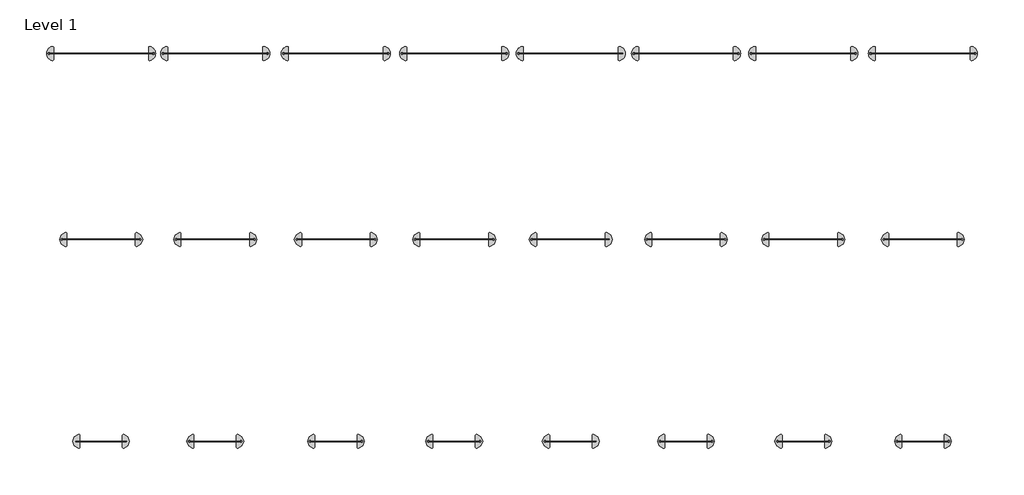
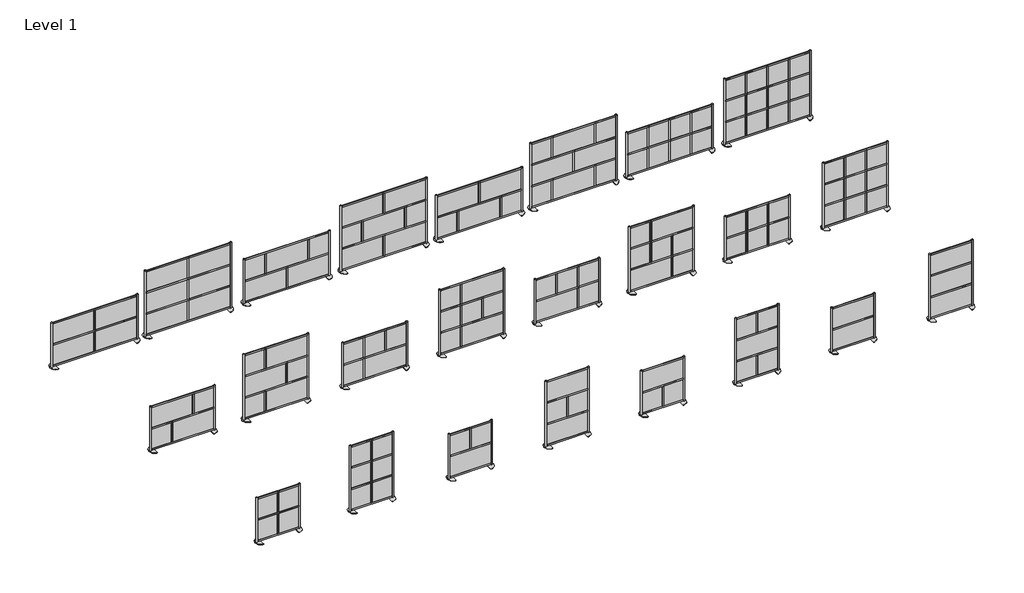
# One storey: 24 furniture elements.
"""IFC4 building model written with IfcOpenShell, lengths in millimetres."""

from ifc_helpers import new_model, si_unit, origin, place, context, project, spatial, transform, mapped, element, save
from components import furniture_49637d3a, furniture_ae6fd556, furniture_6dbf7405, furniture_009af1f4, furniture_4ea784c6, furniture_378eb53b, furniture_814bd26c, furniture_1973c1a8, furniture_4f8a734f, furniture_0cb873e3, furniture_134b2a37, furniture_05770d44, furniture_f7fb56cb, furniture_44894f56, furniture_68dde310, furniture_77953dd8, furniture_960380eb, furniture_73bdf1c8, furniture_b7a553f2, furniture_b8c1659f, furniture_a3e9a44e, furniture_55c42a93, furniture_11cf4dc9, furniture_014495cd

model = new_model("IFC4")

# Units and contexts
model_context = context("Model", 3, world=origin())
ifc_project = project(units=[si_unit("LENGTHUNIT", "METRE", prefix="MILLI")], contexts=[model_context])

# Site, building, storey
site = spatial("IfcSite", under=ifc_project)
building = spatial("IfcBuilding", under=site)
storey = spatial("IfcBuildingStorey", under=building, Name="Level 1", Elevation=0.0)

# Furniture
placement = place(None, origin())
furniture_shape = furniture_49637d3a(model_context)
element("IfcFurniture", 1, ObjectType="Loft_Wall-Framewall-52 : LW41-53\"T", at=placement, inside=storey, context=model_context, shape_type="MappedRepresentation", body=[
    mapped(furniture_shape, transform((1272.8085055, -6503.1542796, 0.0), x_axis=(1.0, 0.0, 0.0), y_axis=(0.0, 1.0, 0.0), z_axis=(0.0, 0.0, 1.0))),
])
furniture_2_shape = furniture_ae6fd556(model_context)
element("IfcFurniture", 2, ObjectType="Loft_Wall-Framewall-52 : LW41-78\"T", at=placement, inside=storey, context=model_context, shape_type="MappedRepresentation", body=[
    mapped(furniture_2_shape, transform((3931.0126367, -6503.1542796, 0.0), x_axis=(1.0, 0.0, 0.0), y_axis=(0.0, 1.0, 0.0), z_axis=(0.0, 0.0, 1.0))),
])
furniture_3_shape = furniture_6dbf7405(model_context)
element("IfcFurniture", 3, ObjectType="Loft_Wall-Framewall-52 : LW42-53\"T", at=placement, inside=storey, context=model_context, shape_type="MappedRepresentation", body=[
    mapped(furniture_3_shape, transform((6740.8413426, -6503.1542796, 0.0), x_axis=(1.0, 0.0, 0.0), y_axis=(0.0, 1.0, 0.0), z_axis=(0.0, 0.0, 1.0))),
])
furniture_4_shape = furniture_009af1f4(model_context)
element("IfcFurniture", 4, ObjectType="Loft_Wall-Framewall-52 : LW42-78\"T", at=placement, inside=storey, context=model_context, shape_type="MappedRepresentation", body=[
    mapped(furniture_4_shape, transform((9496.650452, -6503.1542796, 0.0), x_axis=(1.0, 0.0, 0.0), y_axis=(0.0, 1.0, 0.0), z_axis=(0.0, 0.0, 1.0))),
])
furniture_5_shape = furniture_4ea784c6(model_context)
element("IfcFurniture", 5, ObjectType="Loft_Wall-Framewall-52 : LW44-53\"T", at=placement, inside=storey, context=model_context, shape_type="MappedRepresentation", body=[
    mapped(furniture_5_shape, transform((12213.1486465, -6503.1542796, 0.0), x_axis=(1.0, 0.0, 0.0), y_axis=(0.0, 1.0, 0.0), z_axis=(0.0, 0.0, 1.0))),
])
furniture_6_shape = furniture_378eb53b(model_context)
element("IfcFurniture", 6, ObjectType="Loft_Wall-Framewall-52 : LW44-78\"T", at=placement, inside=storey, context=model_context, shape_type="MappedRepresentation", body=[
    mapped(furniture_6_shape, transform((14895.2049979, -6503.1542796, 0.0), x_axis=(1.0, 0.0, 0.0), y_axis=(0.0, 1.0, 0.0), z_axis=(0.0, 0.0, 1.0))),
])
furniture_7_shape = furniture_814bd26c(model_context)
element("IfcFurniture", 7, ObjectType="Loft_Wall-Framewall-52 : LW45-53\"T", at=placement, inside=storey, context=model_context, shape_type="MappedRepresentation", body=[
    mapped(furniture_7_shape, transform((17626.0260102, -6503.1542796, 0.0), x_axis=(1.0, 0.0, 0.0), y_axis=(0.0, 1.0, 0.0), z_axis=(0.0, 0.0, 1.0))),
])
furniture_8_shape = furniture_1973c1a8(model_context)
element("IfcFurniture", 8, ObjectType="Loft_Wall-Framewall-52 : LW45-78\"T", at=placement, inside=storey, context=model_context, shape_type="MappedRepresentation", body=[
    mapped(furniture_8_shape, transform((20412.1561041, -6503.1542796, 0.0), x_axis=(1.0, 0.0, 0.0), y_axis=(0.0, 1.0, 0.0), z_axis=(0.0, 0.0, 1.0))),
])
furniture_9_shape = furniture_4f8a734f(model_context)
element("IfcFurniture", 9, ObjectType="Loft_Wall-Framewall-76 : LW61-53\"T", at=placement, inside=storey, context=model_context, shape_type="MappedRepresentation", body=[
    mapped(furniture_9_shape, transform((1272.8085055, -1794.3047667, 0.0), x_axis=(1.0, 0.0, 0.0), y_axis=(0.0, 1.0, 0.0), z_axis=(0.0, 0.0, 1.0))),
])
furniture_10_shape = furniture_0cb873e3(model_context)
element("IfcFurniture", 10, ObjectType="Loft_Wall-Framewall-76 : LW61-78\"T", at=placement, inside=storey, context=model_context, shape_type="MappedRepresentation", body=[
    mapped(furniture_10_shape, transform((3931.0126367, -1794.3047667, 0.0), x_axis=(1.0, 0.0, 0.0), y_axis=(0.0, 1.0, 0.0), z_axis=(0.0, 0.0, 1.0))),
])
furniture_11_shape = furniture_134b2a37(model_context)
element("IfcFurniture", 11, ObjectType="Loft_Wall-Framewall-76 : LW62-53\"T", at=placement, inside=storey, context=model_context, shape_type="MappedRepresentation", body=[
    mapped(furniture_11_shape, transform((6740.8413426, -1794.3047667, 0.0), x_axis=(1.0, 0.0, 0.0), y_axis=(0.0, 1.0, 0.0), z_axis=(0.0, 0.0, 1.0))),
])
furniture_12_shape = furniture_05770d44(model_context)
element("IfcFurniture", 12, ObjectType="Loft_Wall-Framewall-76 : LW62-78\"T", at=placement, inside=storey, context=model_context, shape_type="MappedRepresentation", body=[
    mapped(furniture_12_shape, transform((9496.650452, -1794.3047667, 0.0), x_axis=(1.0, 0.0, 0.0), y_axis=(0.0, 1.0, 0.0), z_axis=(0.0, 0.0, 1.0))),
])
furniture_13_shape = furniture_f7fb56cb(model_context)
element("IfcFurniture", 13, ObjectType="Loft_Wall-Framewall-76 : LW63-53\"T", at=placement, inside=storey, context=model_context, shape_type="MappedRepresentation", body=[
    mapped(furniture_13_shape, transform((12213.1486465, -1794.3047667, 0.0), x_axis=(1.0, 0.0, 0.0), y_axis=(0.0, 1.0, 0.0), z_axis=(0.0, 0.0, 1.0))),
])
furniture_14_shape = furniture_44894f56(model_context)
element("IfcFurniture", 14, ObjectType="Loft_Wall-Framewall-76 : LW63-78\"T", at=placement, inside=storey, context=model_context, shape_type="MappedRepresentation", body=[
    mapped(furniture_14_shape, transform((14895.2049979, -1794.3047667, 0.0), x_axis=(1.0, 0.0, 0.0), y_axis=(0.0, 1.0, 0.0), z_axis=(0.0, 0.0, 1.0))),
])
furniture_15_shape = furniture_68dde310(model_context)
element("IfcFurniture", 15, ObjectType="Loft_Wall-Framewall-76 : LW64-53\"T", at=placement, inside=storey, context=model_context, shape_type="MappedRepresentation", body=[
    mapped(furniture_15_shape, transform((17626.0260102, -1794.3047667, 0.0), x_axis=(1.0, 0.0, 0.0), y_axis=(0.0, 1.0, 0.0), z_axis=(0.0, 0.0, 1.0))),
])
furniture_16_shape = furniture_77953dd8(model_context)
element("IfcFurniture", 16, ObjectType="Loft_Wall-Framewall-76 : LW64-78\"T", at=placement, inside=storey, context=model_context, shape_type="MappedRepresentation", body=[
    mapped(furniture_16_shape, transform((20412.1561041, -1794.3047667, 0.0), x_axis=(1.0, 0.0, 0.0), y_axis=(0.0, 1.0, 0.0), z_axis=(0.0, 0.0, 1.0))),
])
furniture_17_shape = furniture_960380eb(model_context)
element("IfcFurniture", 17, ObjectType="Loft_Wall-Framewall-100 : LW81-53\" T", at=placement, inside=storey, context=model_context, shape_type="MappedRepresentation", body=[
    mapped(furniture_17_shape, transform((1272.8085055, 2539.5987849, 0.0), x_axis=(1.0, 0.0, 0.0), y_axis=(0.0, 1.0, 0.0), z_axis=(0.0, 0.0, 1.0))),
])
furniture_18_shape = furniture_73bdf1c8(model_context)
element("IfcFurniture", 18, ObjectType="Loft_Wall-Framewall-100 : LW81-78\" T", at=placement, inside=storey, context=model_context, shape_type="MappedRepresentation", body=[
    mapped(furniture_18_shape, transform((3931.0126367, 2539.5987849, 0.0), x_axis=(1.0, 0.0, 0.0), y_axis=(0.0, 1.0, 0.0), z_axis=(0.0, 0.0, 1.0))),
])
furniture_19_shape = furniture_b7a553f2(model_context)
element("IfcFurniture", 19, ObjectType="Loft_Wall-Framewall-100 : LW82-53\" T", at=placement, inside=storey, context=model_context, shape_type="MappedRepresentation", body=[
    mapped(furniture_19_shape, transform((6740.8413426, 2539.5987849, 0.0), x_axis=(1.0, 0.0, 0.0), y_axis=(0.0, 1.0, 0.0), z_axis=(0.0, 0.0, 1.0))),
])
furniture_20_shape = furniture_b8c1659f(model_context)
element("IfcFurniture", 20, ObjectType="Loft_Wall-Framewall-100 : LW82-78\" T", at=placement, inside=storey, context=model_context, shape_type="MappedRepresentation", body=[
    mapped(furniture_20_shape, transform((9496.650452, 2539.5987849, 0.0), x_axis=(1.0, 0.0, 0.0), y_axis=(0.0, 1.0, 0.0), z_axis=(0.0, 0.0, 1.0))),
])
furniture_21_shape = furniture_a3e9a44e(model_context)
element("IfcFurniture", 21, ObjectType="Loft_Wall-Framewall-100 : LW83-53\" T", at=placement, inside=storey, context=model_context, shape_type="MappedRepresentation", body=[
    mapped(furniture_21_shape, transform((12213.1486465, 2539.5987849, 0.0), x_axis=(1.0, 0.0, 0.0), y_axis=(0.0, 1.0, 0.0), z_axis=(0.0, 0.0, 1.0))),
])
furniture_22_shape = furniture_55c42a93(model_context)
element("IfcFurniture", 22, ObjectType="Loft_Wall-Framewall-100 : LW83-78\" T", at=placement, inside=storey, context=model_context, shape_type="MappedRepresentation", body=[
    mapped(furniture_22_shape, transform((14895.2049979, 2539.5987849, 0.0), x_axis=(1.0, 0.0, 0.0), y_axis=(0.0, 1.0, 0.0), z_axis=(0.0, 0.0, 1.0))),
])
furniture_23_shape = furniture_11cf4dc9(model_context)
element("IfcFurniture", 23, ObjectType="Loft_Wall-Framewall-100 : LW85-53\" T", at=placement, inside=storey, context=model_context, shape_type="MappedRepresentation", body=[
    mapped(furniture_23_shape, transform((17626.0260102, 2539.5987849, 0.0), x_axis=(1.0, 0.0, 0.0), y_axis=(0.0, 1.0, 0.0), z_axis=(0.0, 0.0, 1.0))),
])
furniture_24_shape = furniture_014495cd(model_context)
element("IfcFurniture", 24, ObjectType="Loft_Wall-Framewall-100 : LW85-78\" T", at=placement, inside=storey, context=model_context, shape_type="MappedRepresentation", body=[
    mapped(furniture_24_shape, transform((20412.1561041, 2539.5987849, 0.0), x_axis=(1.0, 0.0, 0.0), y_axis=(0.0, 1.0, 0.0), z_axis=(0.0, 0.0, 1.0))),
])

save(model, "model.ifc")
